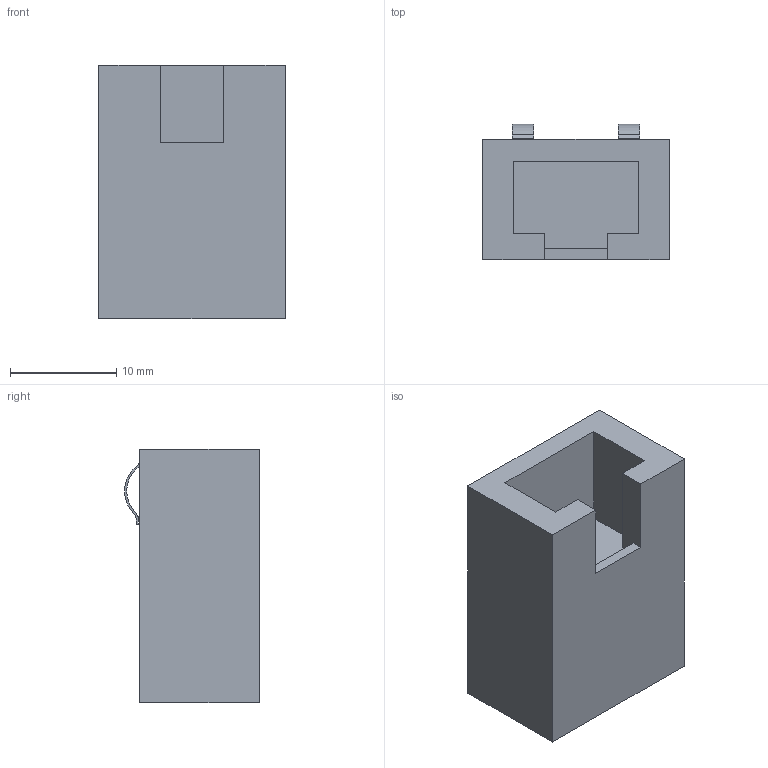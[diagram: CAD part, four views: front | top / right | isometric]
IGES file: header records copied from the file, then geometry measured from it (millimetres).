
Start section:  PTC IGES file: j5-cn1a.igs
Global section: file name: j5-cn1a.igs; native system: Creo Parametric by PTC Inc.; preprocessor: 2017480; author: BP68092; organization: Unknown; date: 20190225.135505; units: millimetre
Bounding box: 17.53 x 12.7 x 23.88 mm (x, y, z)
Volume: 3805.5 mm3; surface area: 2155.6 mm2
Topology: 1 solids, 1 shells, 44 faces, 120 edges, 80 vertices
Faces by surface type: bspline 34, revolution 10
